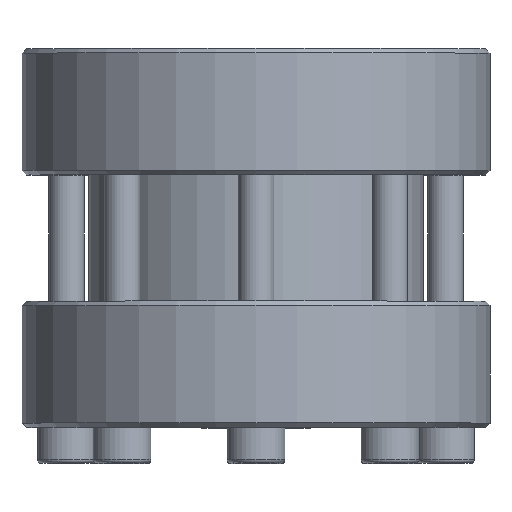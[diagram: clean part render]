
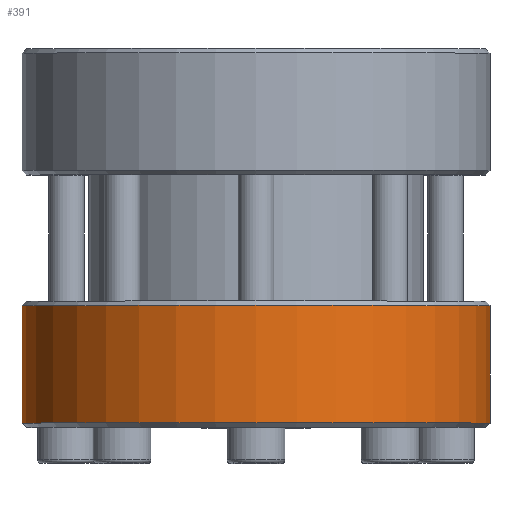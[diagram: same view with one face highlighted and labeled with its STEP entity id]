
A CAD part, top view. The second image highlights one B-rep face of the part: STEP entity #391.
In plain terms, the highlighted cylindrical face has radius 52.5 mm (diameter 105 mm), a full revolution.
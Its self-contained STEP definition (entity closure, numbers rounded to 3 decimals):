
#391 = ADVANCED_FACE( '', ( #645, #646 ), #647, .T. );
#645 = FACE_OUTER_BOUND( '', #835, .T. );
#646 = FACE_OUTER_BOUND( '', #836, .T. );
#647 = CYLINDRICAL_SURFACE( '', #837, 52.5 );
#835 = EDGE_LOOP( '', ( #1124 ) );
#836 = EDGE_LOOP( '', ( #1125 ) );
#837 = AXIS2_PLACEMENT_3D( '', #1126, #1127, #1128 );
#1124 = ORIENTED_EDGE( '', *, *, #1450, .T. );
#1125 = ORIENTED_EDGE( '', *, *, #1451, .T. );
#1126 = CARTESIAN_POINT( '', ( 0., -60., 0. ) );
#1127 = DIRECTION( '', ( 0., 1., 0. ) );
#1128 = DIRECTION( '', ( 0., 0., -1. ) );
#1450 = EDGE_CURVE( '', #1641, #1641, #1642, .T. );
#1451 = EDGE_CURVE( '', #1643, #1643, #1644, .T. );
#1641 = VERTEX_POINT( '', #1817 );
#1642 = CIRCLE( '', #1818, 52.5 );
#1643 = VERTEX_POINT( '', #1819 );
#1644 = CIRCLE( '', #1820, 52.5 );
#1817 = CARTESIAN_POINT( '', ( 0., 27.333, -52.5 ) );
#1818 = AXIS2_PLACEMENT_3D( '', #1971, #1972, #1973 );
#1819 = CARTESIAN_POINT( '', ( 0., 1., 52.5 ) );
#1820 = AXIS2_PLACEMENT_3D( '', #1974, #1975, #1976 );
#1971 = CARTESIAN_POINT( '', ( 0., 27.333, 0. ) );
#1972 = DIRECTION( '', ( 0., -1., 0. ) );
#1973 = DIRECTION( '', ( 0., 0., -1. ) );
#1974 = CARTESIAN_POINT( '', ( 0., 1., 0. ) );
#1975 = DIRECTION( '', ( 0., 1., 0. ) );
#1976 = DIRECTION( '', ( 0., 0., 1. ) );
